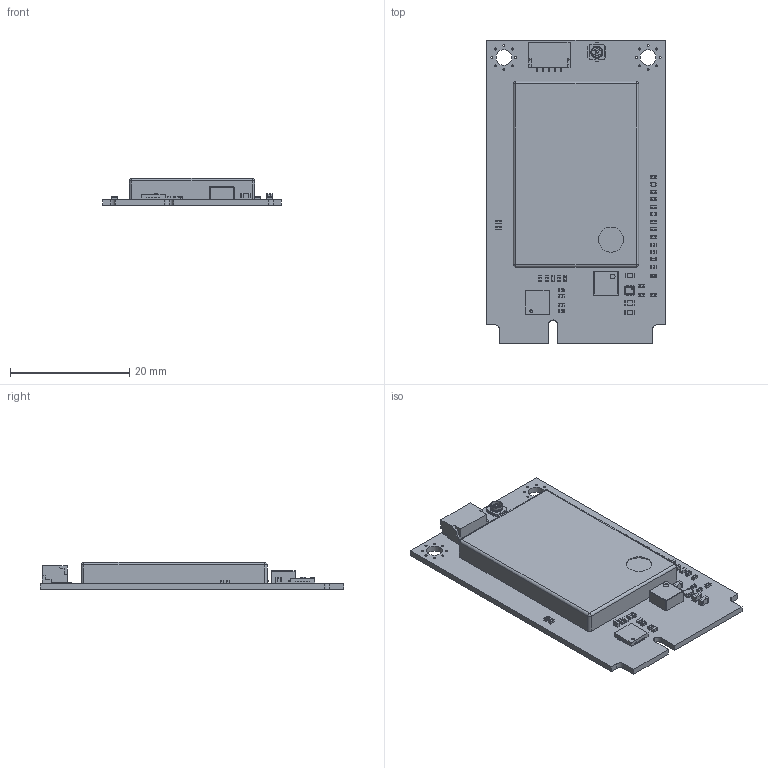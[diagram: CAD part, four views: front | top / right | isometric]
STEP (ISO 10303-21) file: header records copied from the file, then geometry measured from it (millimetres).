
FILE_DESCRIPTION(('KiCad electronic assembly'),'2;1');
FILE_NAME('BRD-00008-X01.step','2020-07-22T14:00:22',('An Author'),( 'A Company'),'Open CASCADE STEP processor 6.9', 'KiCad to STEP converter','Unknown');
FILE_SCHEMA(('AUTOMOTIVE_DESIGN { 1 0 10303 214 1 1 1 1 }'));
Length unit declared in the file: millimetre
Products named in the file (30): Open CASCADE STEP translator 6.9 1; WURTH_74438357010; SOLID; RESC100X50X40L25N; COMPOUND; ROHM_SML-P13PT; QFN21P50_400X400X80L40X25T200N; HIROSE_U.FL-R-SMT-1; KINEIS_KIM1; JST_SM05B-SRSS-TB; CAPC100X50X55L25N; BEADC100X50X55L25N; ROHM_SMLP13BC8T; CAPC100X50X90L25N; CAPC160X80X100L37N; CAPC160X80X95L37N; ICSOFL6P50_160X160X60L30X21N
Assembly tree (52 placements, depth 3):
  Open CASCADE STEP translator 6.9 1
    WURTH_74438357010
      SOLID
    RESC100X50X40L25N  x16
      COMPOUND
    ROHM_SML-P13PT
      COMPOUND
    QFN21P50_400X400X80L40X25T200N
      COMPOUND
    HIROSE_U.FL-R-SMT-1
      COMPOUND
    KINEIS_KIM1
      SOLID
    JST_SM05B-SRSS-TB
      SOLID
    CAPC100X50X55L25N  x6
      COMPOUND
    BEADC100X50X55L25N  x2
      COMPOUND
    ROHM_SMLP13BC8T
      SOLID
    CAPC100X50X90L25N  x2
      COMPOUND
    CAPC160X80X100L37N  x2
      COMPOUND
    CAPC160X80X95L37N
      COMPOUND
    ICSOFL6P50_160X160X60L30X21N
      COMPOUND
    COMPOUND
Bounding box: 30 x 50.95 x 4.55 mm (x, y, z)
Volume: 3894.5 mm3; surface area: 5347.5 mm2
Topology: 135 solids, 135 shells, 2517 faces, 14069 edges, 19825 vertices
Faces by surface type: plane 1358, cylinder 889, sphere 224, bspline 32, cone 8, torus 4, revolution 2
Full cylindrical faces by diameter (mm): 0.35 x20, 2.65 x2
Entity records: 88649 total; most frequent: CARTESIAN_POINT 27348, DIRECTION 10650, LINE 6975, VECTOR 6975, ORIENTED_EDGE 4422, PCURVE 4422, DEFINITIONAL_REPRESENTATION 4422, EDGE_CURVE 2211
